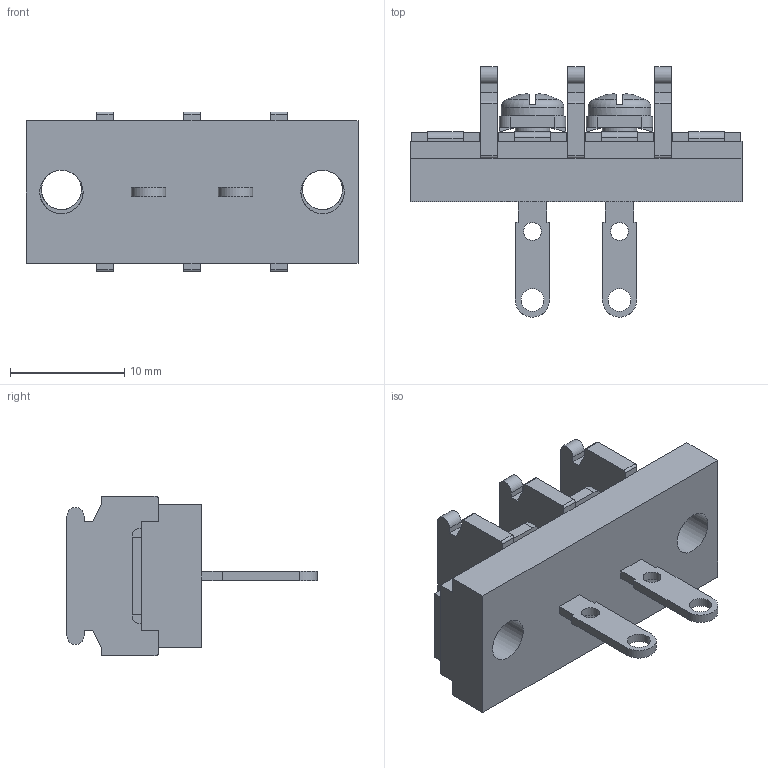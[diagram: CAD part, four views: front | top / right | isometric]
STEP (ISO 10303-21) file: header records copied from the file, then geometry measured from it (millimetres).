
FILE_DESCRIPTION(/* description */ ('Alibre Inc.'),/* implementation_level */ '2;1');
FILE_NAME(/* name */ 'export0',/* time_stamp */ '2015-10-26T16:34:44+09:00',/* author */ (''),/* organization */ (''),/* preprocessor_version */ 'ST-DEVELOPER v14',/* originating_system */ 'Alibre',/* authorisation */ '');
FILE_SCHEMA (('CONFIG_CONTROL_DESIGN'));
Length unit declared in the file: centimetre
Products named in the file (1): ID_1
Bounding box: 29.06 x 21.9 x 14 mm (x, y, z)
Volume: 2378.3 mm3; surface area: 2432.3 mm2
Topology: 1 solids, 17 shells, 688 faces, 1836 edges, 1212 vertices
Faces by surface type: plane 520, bspline 104, cylinder 48, cone 8, torus 4, sphere 4
Full cylindrical faces by diameter (mm): 1.57 x2, 2 x2, 3 x2, 3.5 x2, 3.8 x2, 5.5 x2
Entity records: 20465 total; most frequent: CARTESIAN_POINT 4691, ORIENTED_EDGE 3624, DIRECTION 2312, EDGE_CURVE 1812, VECTOR 1380, LINE 1380, VERTEX_POINT 1204, EDGE_LOOP 754
